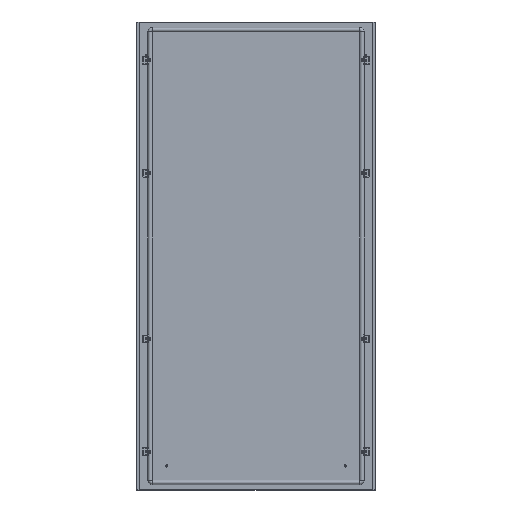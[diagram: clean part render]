
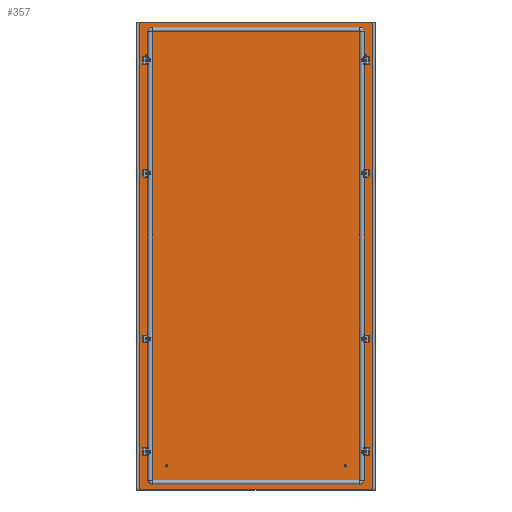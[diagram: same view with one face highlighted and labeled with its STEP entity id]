
A CAD part, top view. The second image highlights one B-rep face of the part: STEP entity #357.
In plain terms, the highlighted planar face has unit normal (0, 0, 1).
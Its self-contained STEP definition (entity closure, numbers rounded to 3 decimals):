
#357 = ADVANCED_FACE('',(#358,#456,#467,#478,#498,#518,#529,#540,#560),
  #580,.F.);
#358 = FACE_BOUND('',#359,.T.);
#359 = EDGE_LOOP('',(#360,#370,#378,#386,#394,#402,#410,#418,#426,#434,
    #442,#450));
#360 = ORIENTED_EDGE('',*,*,#361,.F.);
#361 = EDGE_CURVE('',#362,#364,#366,.T.);
#362 = VERTEX_POINT('',#363);
#363 = CARTESIAN_POINT('',(-395.5,777.5,0.));
#364 = VERTEX_POINT('',#365);
#365 = CARTESIAN_POINT('',(-395.3,777.5,0.));
#366 = LINE('',#367,#368);
#367 = CARTESIAN_POINT('',(0.,777.5,0.)
  );
#368 = VECTOR('',#369,1.);
#369 = DIRECTION('',(1.,0.,0.));
#370 = ORIENTED_EDGE('',*,*,#371,.T.);
#371 = EDGE_CURVE('',#362,#372,#374,.T.);
#372 = VERTEX_POINT('',#373);
#373 = CARTESIAN_POINT('',(-395.5,-777.5,0.));
#374 = LINE('',#375,#376);
#375 = CARTESIAN_POINT('',(-395.5,0.,0.
    ));
#376 = VECTOR('',#377,1.);
#377 = DIRECTION('',(0.,-1.,0.));
#378 = ORIENTED_EDGE('',*,*,#379,.T.);
#379 = EDGE_CURVE('',#372,#380,#382,.T.);
#380 = VERTEX_POINT('',#381);
#381 = CARTESIAN_POINT('',(-395.3,-777.5,0.));
#382 = LINE('',#383,#384);
#383 = CARTESIAN_POINT('',(0.,-777.5,
    0.));
#384 = VECTOR('',#385,1.);
#385 = DIRECTION('',(1.,-0.,-0.));
#386 = ORIENTED_EDGE('',*,*,#387,.F.);
#387 = EDGE_CURVE('',#388,#380,#390,.T.);
#388 = VERTEX_POINT('',#389);
#389 = CARTESIAN_POINT('',(-395.3,-776.,0.));
#390 = LINE('',#391,#392);
#391 = CARTESIAN_POINT('',(-395.3,0.,
    0.));
#392 = VECTOR('',#393,1.);
#393 = DIRECTION('',(0.,-1.,0.));
#394 = ORIENTED_EDGE('',*,*,#395,.T.);
#395 = EDGE_CURVE('',#388,#396,#398,.T.);
#396 = VERTEX_POINT('',#397);
#397 = CARTESIAN_POINT('',(395.3,-776.,0.));
#398 = LINE('',#399,#400);
#399 = CARTESIAN_POINT('',(0.,-776.,0.
    ));
#400 = VECTOR('',#401,1.);
#401 = DIRECTION('',(1.,-0.,-0.));
#402 = ORIENTED_EDGE('',*,*,#403,.T.);
#403 = EDGE_CURVE('',#396,#404,#406,.T.);
#404 = VERTEX_POINT('',#405);
#405 = CARTESIAN_POINT('',(395.3,-777.5,0.));
#406 = LINE('',#407,#408);
#407 = CARTESIAN_POINT('',(395.3,-776.,0.));
#408 = VECTOR('',#409,1.);
#409 = DIRECTION('',(0.,-1.,0.));
#410 = ORIENTED_EDGE('',*,*,#411,.F.);
#411 = EDGE_CURVE('',#412,#404,#414,.T.);
#412 = VERTEX_POINT('',#413);
#413 = CARTESIAN_POINT('',(395.5,-777.5,0.));
#414 = LINE('',#415,#416);
#415 = CARTESIAN_POINT('',(0.,-777.5,0.
    ));
#416 = VECTOR('',#417,1.);
#417 = DIRECTION('',(-1.,0.,0.));
#418 = ORIENTED_EDGE('',*,*,#419,.T.);
#419 = EDGE_CURVE('',#412,#420,#422,.T.);
#420 = VERTEX_POINT('',#421);
#421 = CARTESIAN_POINT('',(395.5,777.5,0.));
#422 = LINE('',#423,#424);
#423 = CARTESIAN_POINT('',(395.5,0.,0.));
#424 = VECTOR('',#425,1.);
#425 = DIRECTION('',(0.,1.,0.));
#426 = ORIENTED_EDGE('',*,*,#427,.T.);
#427 = EDGE_CURVE('',#420,#428,#430,.T.);
#428 = VERTEX_POINT('',#429);
#429 = CARTESIAN_POINT('',(395.3,777.5,0.));
#430 = LINE('',#431,#432);
#431 = CARTESIAN_POINT('',(0.,777.5,0.
    ));
#432 = VECTOR('',#433,1.);
#433 = DIRECTION('',(-1.,0.,0.));
#434 = ORIENTED_EDGE('',*,*,#435,.F.);
#435 = EDGE_CURVE('',#436,#428,#438,.T.);
#436 = VERTEX_POINT('',#437);
#437 = CARTESIAN_POINT('',(395.3,776.,0.));
#438 = LINE('',#439,#440);
#439 = CARTESIAN_POINT('',(395.3,0.,
    0.));
#440 = VECTOR('',#441,1.);
#441 = DIRECTION('',(0.,1.,0.));
#442 = ORIENTED_EDGE('',*,*,#443,.T.);
#443 = EDGE_CURVE('',#436,#444,#446,.T.);
#444 = VERTEX_POINT('',#445);
#445 = CARTESIAN_POINT('',(-395.3,776.,0.));
#446 = LINE('',#447,#448);
#447 = CARTESIAN_POINT('',(0.,776.,0.)
  );
#448 = VECTOR('',#449,1.);
#449 = DIRECTION('',(-1.,0.,0.));
#450 = ORIENTED_EDGE('',*,*,#451,.T.);
#451 = EDGE_CURVE('',#444,#364,#452,.T.);
#452 = LINE('',#453,#454);
#453 = CARTESIAN_POINT('',(-395.3,776.,0.));
#454 = VECTOR('',#455,1.);
#455 = DIRECTION('',(0.,1.,0.));
#456 = FACE_BOUND('',#457,.T.);
#457 = EDGE_LOOP('',(#458));
#458 = ORIENTED_EDGE('',*,*,#459,.T.);
#459 = EDGE_CURVE('',#460,#460,#462,.T.);
#460 = VERTEX_POINT('',#461);
#461 = CARTESIAN_POINT('',(-364.5,-270.25,0.));
#462 = CIRCLE('',#463,4.75);
#463 = AXIS2_PLACEMENT_3D('',#464,#465,#466);
#464 = CARTESIAN_POINT('',(-364.5,-275.,0.));
#465 = DIRECTION('',(0.,0.,-1.));
#466 = DIRECTION('',(0.,1.,0.));
#467 = FACE_BOUND('',#468,.T.);
#468 = EDGE_LOOP('',(#469));
#469 = ORIENTED_EDGE('',*,*,#470,.T.);
#470 = EDGE_CURVE('',#471,#471,#473,.T.);
#471 = VERTEX_POINT('',#472);
#472 = CARTESIAN_POINT('',(364.5,-279.75,0.));
#473 = CIRCLE('',#474,4.75);
#474 = AXIS2_PLACEMENT_3D('',#475,#476,#477);
#475 = CARTESIAN_POINT('',(364.5,-275.,0.));
#476 = DIRECTION('',(-0.,0.,-1.));
#477 = DIRECTION('',(0.,-1.,0.));
#478 = FACE_BOUND('',#479,.T.);
#479 = EDGE_LOOP('',(#480,#491));
#480 = ORIENTED_EDGE('',*,*,#481,.F.);
#481 = EDGE_CURVE('',#482,#484,#486,.T.);
#482 = VERTEX_POINT('',#483);
#483 = CARTESIAN_POINT('',(-364.5,654.75,0.));
#484 = VERTEX_POINT('',#485);
#485 = CARTESIAN_POINT('',(-364.5,645.25,0.));
#486 = CIRCLE('',#487,4.75);
#487 = AXIS2_PLACEMENT_3D('',#488,#489,#490);
#488 = CARTESIAN_POINT('',(-364.5,650.,0.));
#489 = DIRECTION('',(0.,0.,1.));
#490 = DIRECTION('',(0.,1.,0.));
#491 = ORIENTED_EDGE('',*,*,#492,.F.);
#492 = EDGE_CURVE('',#484,#482,#493,.T.);
#493 = CIRCLE('',#494,4.75);
#494 = AXIS2_PLACEMENT_3D('',#495,#496,#497);
#495 = CARTESIAN_POINT('',(-364.5,650.,0.));
#496 = DIRECTION('',(0.,0.,1.));
#497 = DIRECTION('',(0.,1.,0.));
#498 = FACE_BOUND('',#499,.T.);
#499 = EDGE_LOOP('',(#500,#511));
#500 = ORIENTED_EDGE('',*,*,#501,.F.);
#501 = EDGE_CURVE('',#502,#504,#506,.T.);
#502 = VERTEX_POINT('',#503);
#503 = CARTESIAN_POINT('',(364.5,645.25,0.));
#504 = VERTEX_POINT('',#505);
#505 = CARTESIAN_POINT('',(364.5,654.75,0.));
#506 = CIRCLE('',#507,4.75);
#507 = AXIS2_PLACEMENT_3D('',#508,#509,#510);
#508 = CARTESIAN_POINT('',(364.5,650.,0.));
#509 = DIRECTION('',(0.,0.,1.));
#510 = DIRECTION('',(0.,-1.,0.));
#511 = ORIENTED_EDGE('',*,*,#512,.F.);
#512 = EDGE_CURVE('',#504,#502,#513,.T.);
#513 = CIRCLE('',#514,4.75);
#514 = AXIS2_PLACEMENT_3D('',#515,#516,#517);
#515 = CARTESIAN_POINT('',(364.5,650.,0.));
#516 = DIRECTION('',(0.,0.,1.));
#517 = DIRECTION('',(0.,-1.,0.));
#518 = FACE_BOUND('',#519,.T.);
#519 = EDGE_LOOP('',(#520));
#520 = ORIENTED_EDGE('',*,*,#521,.T.);
#521 = EDGE_CURVE('',#522,#522,#524,.T.);
#522 = VERTEX_POINT('',#523);
#523 = CARTESIAN_POINT('',(-364.5,-645.25,0.));
#524 = CIRCLE('',#525,4.75);
#525 = AXIS2_PLACEMENT_3D('',#526,#527,#528);
#526 = CARTESIAN_POINT('',(-364.5,-650.,0.));
#527 = DIRECTION('',(0.,0.,-1.));
#528 = DIRECTION('',(0.,1.,0.));
#529 = FACE_BOUND('',#530,.T.);
#530 = EDGE_LOOP('',(#531));
#531 = ORIENTED_EDGE('',*,*,#532,.T.);
#532 = EDGE_CURVE('',#533,#533,#535,.T.);
#533 = VERTEX_POINT('',#534);
#534 = CARTESIAN_POINT('',(364.5,-654.75,0.));
#535 = CIRCLE('',#536,4.75);
#536 = AXIS2_PLACEMENT_3D('',#537,#538,#539);
#537 = CARTESIAN_POINT('',(364.5,-650.,0.));
#538 = DIRECTION('',(-0.,0.,-1.));
#539 = DIRECTION('',(0.,-1.,0.));
#540 = FACE_BOUND('',#541,.T.);
#541 = EDGE_LOOP('',(#542,#553));
#542 = ORIENTED_EDGE('',*,*,#543,.F.);
#543 = EDGE_CURVE('',#544,#546,#548,.T.);
#544 = VERTEX_POINT('',#545);
#545 = CARTESIAN_POINT('',(364.5,270.25,0.));
#546 = VERTEX_POINT('',#547);
#547 = CARTESIAN_POINT('',(364.5,279.75,0.));
#548 = CIRCLE('',#549,4.75);
#549 = AXIS2_PLACEMENT_3D('',#550,#551,#552);
#550 = CARTESIAN_POINT('',(364.5,275.,0.));
#551 = DIRECTION('',(0.,0.,1.));
#552 = DIRECTION('',(0.,-1.,0.));
#553 = ORIENTED_EDGE('',*,*,#554,.F.);
#554 = EDGE_CURVE('',#546,#544,#555,.T.);
#555 = CIRCLE('',#556,4.75);
#556 = AXIS2_PLACEMENT_3D('',#557,#558,#559);
#557 = CARTESIAN_POINT('',(364.5,275.,0.));
#558 = DIRECTION('',(0.,0.,1.));
#559 = DIRECTION('',(0.,-1.,0.));
#560 = FACE_BOUND('',#561,.T.);
#561 = EDGE_LOOP('',(#562,#573));
#562 = ORIENTED_EDGE('',*,*,#563,.F.);
#563 = EDGE_CURVE('',#564,#566,#568,.T.);
#564 = VERTEX_POINT('',#565);
#565 = CARTESIAN_POINT('',(-364.5,279.75,0.));
#566 = VERTEX_POINT('',#567);
#567 = CARTESIAN_POINT('',(-364.5,270.25,0.));
#568 = CIRCLE('',#569,4.75);
#569 = AXIS2_PLACEMENT_3D('',#570,#571,#572);
#570 = CARTESIAN_POINT('',(-364.5,275.,0.));
#571 = DIRECTION('',(0.,0.,1.));
#572 = DIRECTION('',(0.,1.,0.));
#573 = ORIENTED_EDGE('',*,*,#574,.F.);
#574 = EDGE_CURVE('',#566,#564,#575,.T.);
#575 = CIRCLE('',#576,4.75);
#576 = AXIS2_PLACEMENT_3D('',#577,#578,#579);
#577 = CARTESIAN_POINT('',(-364.5,275.,0.));
#578 = DIRECTION('',(0.,0.,1.));
#579 = DIRECTION('',(0.,1.,0.));
#580 = PLANE('',#581);
#581 = AXIS2_PLACEMENT_3D('',#582,#583,#584);
#582 = CARTESIAN_POINT('',(0.,0.,
    0.));
#583 = DIRECTION('',(0.,0.,-1.));
#584 = DIRECTION('',(-1.,0.,0.));
